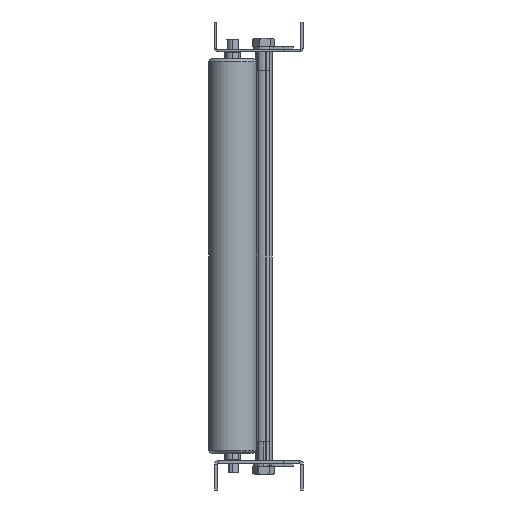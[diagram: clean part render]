
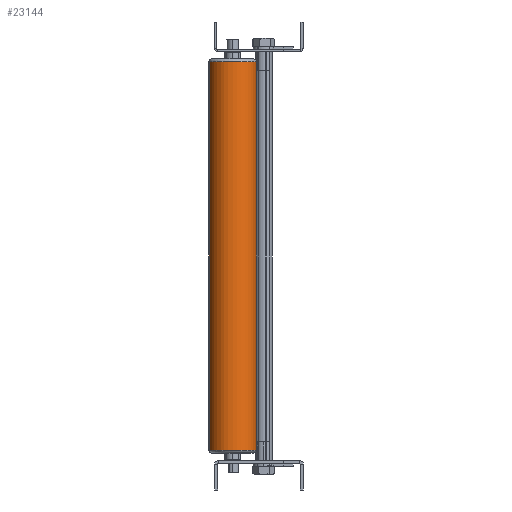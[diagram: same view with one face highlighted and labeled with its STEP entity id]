
A CAD part, left-side view. The second image highlights one B-rep face of the part: STEP entity #23144.
In plain terms, the highlighted cylindrical face has radius 24.3 mm (diameter 48.6 mm), a partial arc.
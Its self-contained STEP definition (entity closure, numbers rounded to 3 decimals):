
#4 = VECTOR ( 'NONE', #27209, 1000. ) ;
#280 = DIRECTION ( 'NONE',  ( 0., 0., -1. ) ) ;
#3150 = VERTEX_POINT ( 'NONE', #19904 ) ;
#4278 = EDGE_CURVE ( 'NONE', #20840, #19841, #30230, .T. ) ;
#4562 = ORIENTED_EDGE ( 'NONE', *, *, #4278, .F. ) ;
#4674 = EDGE_LOOP ( 'NONE', ( #33999, #27881, #36786, #4562 ) ) ;
#6149 = DIRECTION ( 'NONE',  ( -0.179, -0.984, 0. ) ) ;
#6973 = CIRCLE ( 'NONE', #14866, 24.3 ) ;
#7445 = CARTESIAN_POINT ( 'NONE',  ( -1532.41, -291.6, -465.545 ) ) ;
#8907 = EDGE_CURVE ( 'NONE', #3150, #24860, #13052, .T. ) ;
#9754 = CARTESIAN_POINT ( 'NONE',  ( -1541.127, -339.412, -816.086 ) ) ;
#11195 = AXIS2_PLACEMENT_3D ( 'NONE', #23091, #280, #23661 ) ;
#12585 = DIRECTION ( 'NONE',  ( 0.179, 0.984, 0. ) ) ;
#12852 = EDGE_CURVE ( 'NONE', #24860, #19841, #6973, .T. ) ;
#13052 = LINE ( 'NONE', #24276, #27924 ) ;
#14866 = AXIS2_PLACEMENT_3D ( 'NONE', #26842, #23990, #12585 ) ;
#16282 = CARTESIAN_POINT ( 'NONE',  ( -1541.127, -339.412, -465.545 ) ) ;
#19841 = VERTEX_POINT ( 'NONE', #16282 ) ;
#19904 = CARTESIAN_POINT ( 'NONE',  ( -1532.41, -291.6, -71.545 ) ) ;
#20840 = VERTEX_POINT ( 'NONE', #28710 ) ;
#21133 = AXIS2_PLACEMENT_3D ( 'NONE', #29113, #26837, #6149 ) ;
#21598 = DIRECTION ( 'NONE',  ( 0., 0., -1. ) ) ;
#23091 = CARTESIAN_POINT ( 'NONE',  ( -1536.768, -315.506, -816.086 ) ) ;
#23144 = ADVANCED_FACE ( 'NONE', ( #26126 ), #34670, .T. ) ;
#23584 = CIRCLE ( 'NONE', #21133, 24.3 ) ;
#23661 = DIRECTION ( 'NONE',  ( -0.179, -0.984, 0. ) ) ;
#23990 = DIRECTION ( 'NONE',  ( 0., 0., 1. ) ) ;
#24276 = CARTESIAN_POINT ( 'NONE',  ( -1532.41, -291.6, -816.086 ) ) ;
#24860 = VERTEX_POINT ( 'NONE', #7445 ) ;
#26126 = FACE_OUTER_BOUND ( 'NONE', #4674, .T. ) ;
#26837 = DIRECTION ( 'NONE',  ( 0., 0., -1. ) ) ;
#26842 = CARTESIAN_POINT ( 'NONE',  ( -1536.768, -315.506, -465.545 ) ) ;
#27209 = DIRECTION ( 'NONE',  ( 0., 0., -1. ) ) ;
#27881 = ORIENTED_EDGE ( 'NONE', *, *, #8907, .T. ) ;
#27924 = VECTOR ( 'NONE', #21598, 1000. ) ;
#28710 = CARTESIAN_POINT ( 'NONE',  ( -1541.127, -339.412, -71.545 ) ) ;
#29113 = CARTESIAN_POINT ( 'NONE',  ( -1536.768, -315.506, -71.545 ) ) ;
#30230 = LINE ( 'NONE', #9754, #4 ) ;
#33999 = ORIENTED_EDGE ( 'NONE', *, *, #35726, .T. ) ;
#34670 = CYLINDRICAL_SURFACE ( 'NONE', #11195, 24.3 ) ;
#35726 = EDGE_CURVE ( 'NONE', #20840, #3150, #23584, .T. ) ;
#36786 = ORIENTED_EDGE ( 'NONE', *, *, #12852, .T. ) ;
